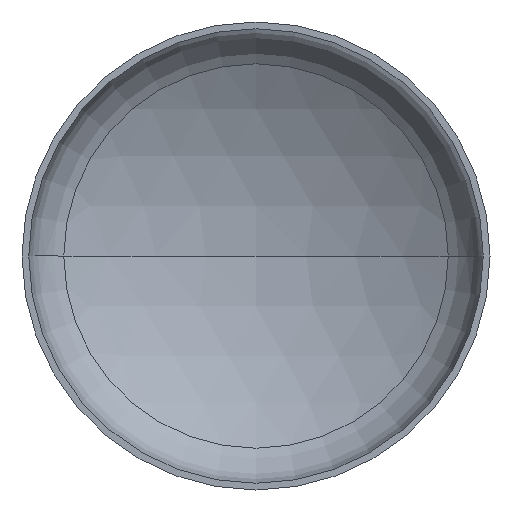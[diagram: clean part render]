
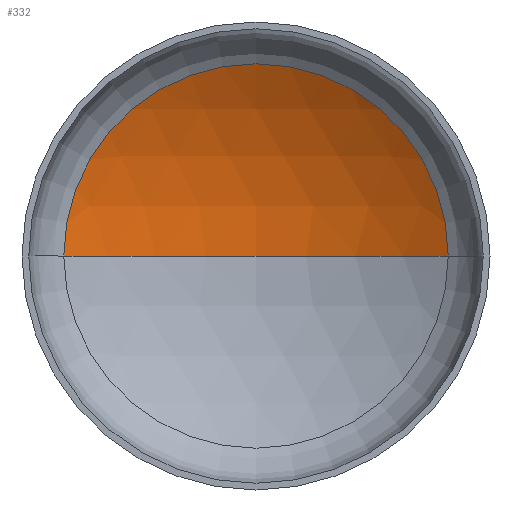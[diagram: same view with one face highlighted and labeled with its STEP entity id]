
A CAD part, front view. The second image highlights one B-rep face of the part: STEP entity #332.
In plain terms, the highlighted spherical face has radius 4000 mm.
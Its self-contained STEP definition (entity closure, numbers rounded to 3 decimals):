
#23 = VERTEX_POINT ( 'NONE', #234 ) ;
#37 = DIRECTION ( 'NONE',  ( -1., 0., 0. ) ) ;
#39 = DIRECTION ( 'NONE',  ( 0., 0., -1. ) ) ;
#41 = CARTESIAN_POINT ( 'NONE',  ( 0., -2651.991, 0. ) ) ;
#45 = CARTESIAN_POINT ( 'NONE',  ( 0., -2651.991, 0. ) ) ;
#47 = AXIS2_PLACEMENT_3D ( 'NONE', #177, #390, #96 ) ;
#49 = AXIS2_PLACEMENT_3D ( 'NONE', #45, #153, #156 ) ;
#51 = AXIS2_PLACEMENT_3D ( 'NONE', #41, #39, #37 ) ;
#53 = AXIS2_PLACEMENT_3D ( 'NONE', #238, #261, #255 ) ;
#68 = VERTEX_POINT ( 'NONE', #208 ) ;
#96 = DIRECTION ( 'NONE',  ( -1., 0., 0. ) ) ;
#103 = ORIENTED_EDGE ( 'NONE', *, *, #223, .F. ) ;
#137 = SPHERICAL_SURFACE ( 'NONE', #47, 4000. ) ;
#153 = DIRECTION ( 'NONE',  ( 0., 0., 1. ) ) ;
#156 = DIRECTION ( 'NONE',  ( 1., 0., 0. ) ) ;
#169 = CIRCLE ( 'NONE', #53, 2053.251 ) ;
#177 = CARTESIAN_POINT ( 'NONE',  ( 0., -2651.991, 0. ) ) ;
#181 = EDGE_CURVE ( 'NONE', #23, #68, #169, .T. ) ;
#200 = EDGE_CURVE ( 'NONE', #360, #23, #374, .T. ) ;
#208 = CARTESIAN_POINT ( 'NONE',  ( -2053.251, 780.815, 0. ) ) ;
#223 = EDGE_CURVE ( 'NONE', #360, #68, #242, .T. ) ;
#234 = CARTESIAN_POINT ( 'NONE',  ( 2053.251, 780.815, 0. ) ) ;
#237 = ORIENTED_EDGE ( 'NONE', *, *, #200, .T. ) ;
#238 = CARTESIAN_POINT ( 'NONE',  ( 0., 780.815, 0. ) ) ;
#242 = CIRCLE ( 'NONE', #49, 4000. ) ;
#255 = DIRECTION ( 'NONE',  ( 1., 0., 0. ) ) ;
#261 = DIRECTION ( 'NONE',  ( 0., -1., 0. ) ) ;
#332 = ADVANCED_FACE ( 'NONE', ( #359 ), #137, .F. ) ;
#359 = FACE_OUTER_BOUND ( 'NONE', #372, .T. ) ;
#360 = VERTEX_POINT ( 'NONE', #365 ) ;
#365 = CARTESIAN_POINT ( 'NONE',  ( 0., 1348.009, 0. ) ) ;
#372 = EDGE_LOOP ( 'NONE', ( #103, #237, #375 ) ) ;
#374 = CIRCLE ( 'NONE', #51, 4000. ) ;
#375 = ORIENTED_EDGE ( 'NONE', *, *, #181, .T. ) ;
#390 = DIRECTION ( 'NONE',  ( 0., 0., -1. ) ) ;
